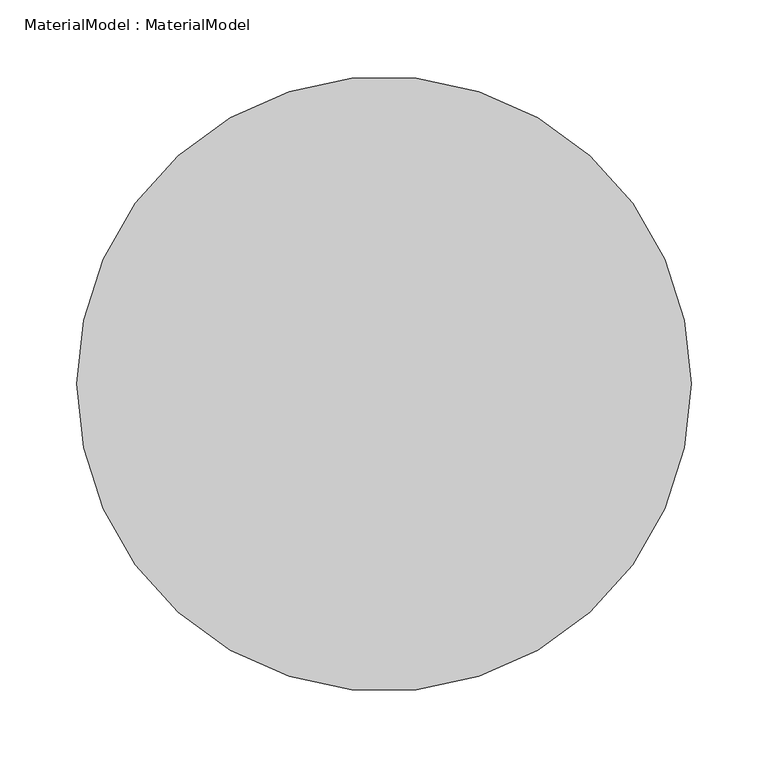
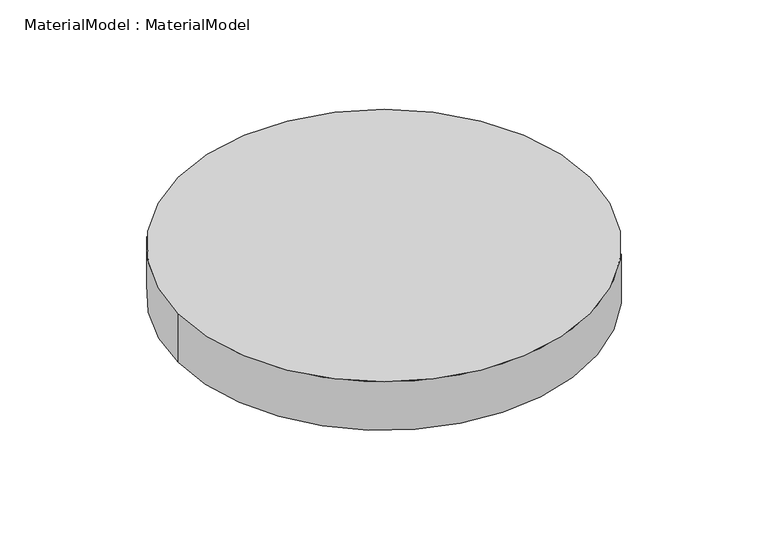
"""IFC4 building model written with IfcOpenShell, lengths in millimetres: proxy geometry, MaterialModel : MaterialModel."""

import ifcopenshell
import ifcopenshell.guid

model = None  # the IFC model being written
_history = None  # IfcOwnerHistory: only IFC2X3 demands one
_inside = {}  # id of a spatial element -> (the spatial element, [elements in it])
_under = {}  # id of a project, library or spatial element -> (it, [spatial elements below it])
_declared = {}  # id of a project -> (the project, [libraries it declares])
_typed = {}  # id of a type object -> (the type object, [elements of that type])
_made_of = {}  # id of a material, layer set ... -> (it, [elements and type objects made of it])


def new_model(schema):
    """Start an empty IFC model of exactly this schema.

    Asked for "IFC4X3", IfcOpenShell would pick the latest addendum, in which some entities
    have other attributes; the version numbers below select the first issue.
    IFC2X3 requires an IfcOwnerHistory on every rooted entity: one is made here for all.
    """
    global model, _history
    if schema == "IFC4X3":
        model = ifcopenshell.file(schema_version=(4, 3, 0, 0))
    else:
        model = ifcopenshell.file(schema=schema)
    _inside.clear()
    _under.clear()
    _declared.clear()
    _typed.clear()
    _made_of.clear()
    _history = None
    if model.schema == "IFC2X3":
        org = make("IfcOrganization", Name="unknown")
        user = make(
            "IfcPersonAndOrganization",
            ThePerson=make("IfcPerson", FamilyName="unknown"),
            TheOrganization=org,
        )
        app = make(
            "IfcApplication",
            ApplicationDeveloper=org,
            Version="unknown",
            ApplicationFullName="unknown",
            ApplicationIdentifier="unknown",
        )
        _history = make(
            "IfcOwnerHistory",
            OwningUser=user,
            OwningApplication=app,
            ChangeAction="ADDED",
            CreationDate=0,
        )
    return model


def make(cls, **values):
    """One entity of the class cls with the attributes given. An attribute that is None is left unset."""
    return model.create_entity(
        cls, **{name: value for name, value in values.items() if value is not None}
    )


def rooted(cls, **values):
    """An entity with a GlobalId (a new one), such as an element, a storey or a relation."""
    return make(cls, GlobalId=ifcopenshell.guid.new(), OwnerHistory=_history, **values)


def si_unit(unit_type, name, prefix=None):
    """IfcSIUnit, for example si_unit("LENGTHUNIT", "METRE", prefix="MILLI")."""
    return make("IfcSIUnit", UnitType=unit_type, Prefix=prefix, Name=name)


def assignment(units):
    """IfcUnitAssignment: the units of a project."""
    return None if units is None else make("IfcUnitAssignment", Units=units)


def point(xyz):
    """IfcCartesianPoint."""
    return None if xyz is None else make("IfcCartesianPoint", Coordinates=xyz)


def direction(xyz):
    """IfcDirection."""
    return None if xyz is None else make("IfcDirection", DirectionRatios=xyz)


def frame(location, z_axis=None, x_axis=None):
    """IfcAxis2Placement3D, a coordinate frame: its origin and axes. An axis left out is left unset."""
    return make(
        "IfcAxis2Placement3D",
        Location=point(location),
        Axis=direction(z_axis),
        RefDirection=direction(x_axis),
    )


def frame_2d(location, x_axis=None):
    """IfcAxis2Placement2D, a coordinate frame in the plane: its origin and x axis."""
    return make(
        "IfcAxis2Placement2D", Location=point(location), RefDirection=direction(x_axis)
    )


def origin():
    """The frame at (0, 0, 0) with its axes left unset."""
    return frame((0.0, 0.0, 0.0))


def origin_with_axes():
    """The frame at (0, 0, 0) with the z axis (0, 0, 1) and the x axis (1, 0, 0) written out."""
    return frame((0.0, 0.0, 0.0), z_axis=(0.0, 0.0, 1.0), x_axis=(1.0, 0.0, 0.0))


def origin_2d():
    """The frame at (0, 0) in the plane with its x axis left unset."""
    return frame_2d((0.0, 0.0))


def place(relative_to, where):
    """IfcLocalPlacement: puts the frame where relative to a parent placement (None: the world)."""
    return make(
        "IfcLocalPlacement", PlacementRelTo=relative_to, RelativePlacement=where
    )


def context(
    kind, dimensions, precision=None, world=None, true_north=None, identifier=None
):
    """IfcGeometricRepresentationContext, for example the 3D "Model" context."""
    return make(
        "IfcGeometricRepresentationContext",
        ContextIdentifier=identifier,
        ContextType=kind,
        CoordinateSpaceDimension=dimensions,
        Precision=precision,
        WorldCoordinateSystem=world,
        TrueNorth=true_north,
    )


def project(units=None, contexts=None):
    """IfcProject with its units and contexts."""
    return rooted(
        "IfcProject",
        Name="project",
        RepresentationContexts=contexts,
        UnitsInContext=assignment(units),
    )


def spatial(cls, under=None, at=None, **own):
    """A site, building, storey or space (cls), placed at a placement, below another one or the project."""
    s = rooted(cls, ObjectPlacement=at, **own)
    if under is not None:
        _under.setdefault(under.id(), (under, []))[1].append(s)
    return s


def circle_curve(where, radius):
    """IfcCircle in the frame where."""
    return make("IfcCircle", Position=where, Radius=radius)


def trimmed(basis, trim1, trim2, sense, master):
    """IfcTrimmedCurve: the piece of a basis curve between two trims."""
    return make(
        "IfcTrimmedCurve",
        BasisCurve=basis,
        Trim1=trim1,
        Trim2=trim2,
        SenseAgreement=sense,
        MasterRepresentation=master,
    )


def segment(curve, same_sense, transition):
    """IfcCompositeCurveSegment."""
    return make(
        "IfcCompositeCurveSegment",
        Transition=transition,
        SameSense=same_sense,
        ParentCurve=curve,
    )


def composite_curve(segments, self_intersect=None):
    """IfcCompositeCurve: segments joined end to end."""
    return make("IfcCompositeCurve", Segments=segments, SelfIntersect=self_intersect)


def outline(outer, holes=None, kind="AREA"):
    """IfcArbitraryClosedProfileDef: a profile drawn as a closed curve; with holes, ...WithVoids."""
    if holes is None:
        return make("IfcArbitraryClosedProfileDef", ProfileType=kind, OuterCurve=outer)
    return make(
        "IfcArbitraryProfileDefWithVoids",
        ProfileType=kind,
        OuterCurve=outer,
        InnerCurves=holes,
    )


def extrude(swept, where, along, depth):
    """IfcExtrudedAreaSolid: the profile swept, set in the frame where, extruded along a direction by depth."""
    return make(
        "IfcExtrudedAreaSolid",
        SweptArea=swept,
        Position=where,
        ExtrudedDirection=direction(along),
        Depth=depth,
    )


def shape(context_of_items, identifier, shape_type, items):
    """IfcShapeRepresentation: the items that make up one representation, for example the "Body"."""
    return make(
        "IfcShapeRepresentation",
        ContextOfItems=context_of_items,
        RepresentationIdentifier=identifier,
        RepresentationType=shape_type,
        Items=items,
    )


def source(mapping_origin, context_of_items, identifier, shape_type, items):
    """IfcRepresentationMap: a shape defined once, which mapped items show again and again."""
    return make(
        "IfcRepresentationMap",
        MappingOrigin=mapping_origin,
        MappedRepresentation=shape(context_of_items, identifier, shape_type, items),
    )


def transform(
    local_origin,
    x_axis=None,
    y_axis=None,
    z_axis=None,
    scale=None,
    scale2=None,
    scale3=None,
    uniform=True,
):
    """IfcCartesianTransformationOperator3D, or its non-uniform kind. x_axis, y_axis, z_axis: its Axis1, 2, 3."""
    if uniform:
        return make(
            "IfcCartesianTransformationOperator3D",
            Axis1=direction(x_axis),
            Axis2=direction(y_axis),
            LocalOrigin=point(local_origin),
            Scale=scale,
            Axis3=direction(z_axis),
        )
    return make(
        "IfcCartesianTransformationOperator3DnonUniform",
        Axis1=direction(x_axis),
        Axis2=direction(y_axis),
        LocalOrigin=point(local_origin),
        Scale=scale,
        Axis3=direction(z_axis),
        Scale2=scale2,
        Scale3=scale3,
    )


def mapped(mapping_source, mapping_target):
    """IfcMappedItem: shows the shape of a source again, moved by a transform."""
    return make(
        "IfcMappedItem", MappingSource=mapping_source, MappingTarget=mapping_target
    )


def made_of(thing, what):
    """Note that an element or type object is made of a material, layer set ...; save() writes the relation."""
    if what is not None:
        _made_of.setdefault(what.id(), (what, []))[1].append(thing)
    return thing


def element(
    cls,
    number,
    at=None,
    inside=None,
    cuts=None,
    type_object=None,
    material=None,
    context=None,
    identifier="Body",
    shape_type=None,
    held_by="IfcProductDefinitionShape",
    body=None,
    shapes=None,
    **own,
):
    """One element of the class cls, such as IfcWall. Its Tag is "e" and its number.

    at: its placement. inside: the storey or other place that contains it. cuts: it is an
    opening in that element (IfcRelVoidsElement). A single representation is given by context,
    identifier, shape_type and body (its items); several are given by shapes. held_by: the class
    of the entity that holds the representations. save() writes the other relations.
    """
    e = rooted(cls, Tag="e%d" % number, ObjectPlacement=at, **own)
    if body is not None:
        shapes = [shape(context, identifier, shape_type, body)]
    if shapes is not None:
        e.Representation = make(held_by, Representations=shapes)
    if inside is not None:
        _inside.setdefault(inside.id(), (inside, []))[1].append(e)
    if cuts is not None:
        rooted(
            "IfcRelVoidsElement", RelatingBuildingElement=cuts, RelatedOpeningElement=e
        )
    if type_object is not None:
        _typed.setdefault(type_object.id(), (type_object, []))[1].append(e)
    return made_of(e, material)


def aggregate(whole, parts):
    """IfcRelAggregates: a whole, such as a stair, and the parts it consists of."""
    return rooted("IfcRelAggregates", RelatingObject=whole, RelatedObjects=parts)


def save(model, path):
    """Write the relations noted so far, then the file.

    IfcRelAggregates (storeys below a building ...), IfcRelContainedInSpatialStructure (elements
    in a storey), IfcRelDefinesByType, IfcRelAssociatesMaterial and IfcRelDeclares: one each for
    every whole, place, type object, material and project.
    """
    for whole, parts in _under.values():
        aggregate(whole, parts)
    for where, things in _inside.values():
        rooted(
            "IfcRelContainedInSpatialStructure",
            RelatedElements=things,
            RelatingStructure=where,
        )
    for kind, things in _typed.values():
        rooted("IfcRelDefinesByType", RelatedObjects=things, RelatingType=kind)
    for what, things in _made_of.values():
        rooted("IfcRelAssociatesMaterial", RelatedObjects=things, RelatingMaterial=what)
    for by, libraries in _declared.values():
        rooted("IfcRelDeclares", RelatingContext=by, RelatedDefinitions=libraries)
    model.write(path)


def materialmodel_materialmodel_7e5ef11c(model_context):
    return source(origin(), model_context, "Body", "SweptSolid", [
        extrude(outline(composite_curve([segment(trimmed(circle_curve(origin_2d(), 200.0), [point((-200.0, 0.0))], [point((200.0, 0.0))], False, "CARTESIAN"), True, "CONTINUOUS"), segment(trimmed(circle_curve(origin_2d(), 200.0), [point((200.0, 0.0))], [point((-200.0, 0.0))], False, "CARTESIAN"), True, "CONTINUOUS")], self_intersect=False)), origin_with_axes(), (0.0, 0.0, 1.0), 50.0),
    ])


if __name__ == "__main__":
    model = new_model("IFC4")
    model_context = context("Model", 3, world=origin())
    ifc_project = project(units=[si_unit("LENGTHUNIT", "METRE", prefix="MILLI")], contexts=[model_context])
    site = spatial("IfcSite", under=ifc_project)
    building = spatial("IfcBuilding", under=site)
    placement = place(None, origin())
    materialmodel_materialmodel_shape = materialmodel_materialmodel_7e5ef11c(model_context)
    element("IfcBuildingElementProxy", 1, Name="MaterialModel : MaterialModel", ObjectType="MaterialModel : MaterialModel", at=placement, inside=building, context=model_context, shape_type="MappedRepresentation", body=[
        mapped(materialmodel_materialmodel_shape, transform((0.0, 0.0, 0.0), x_axis=(1.0, 0.0, 0.0), y_axis=(0.0, 1.0, 0.0), z_axis=(0.0, 0.0, 1.0))),
    ])
    save(model, "model.ifc")
